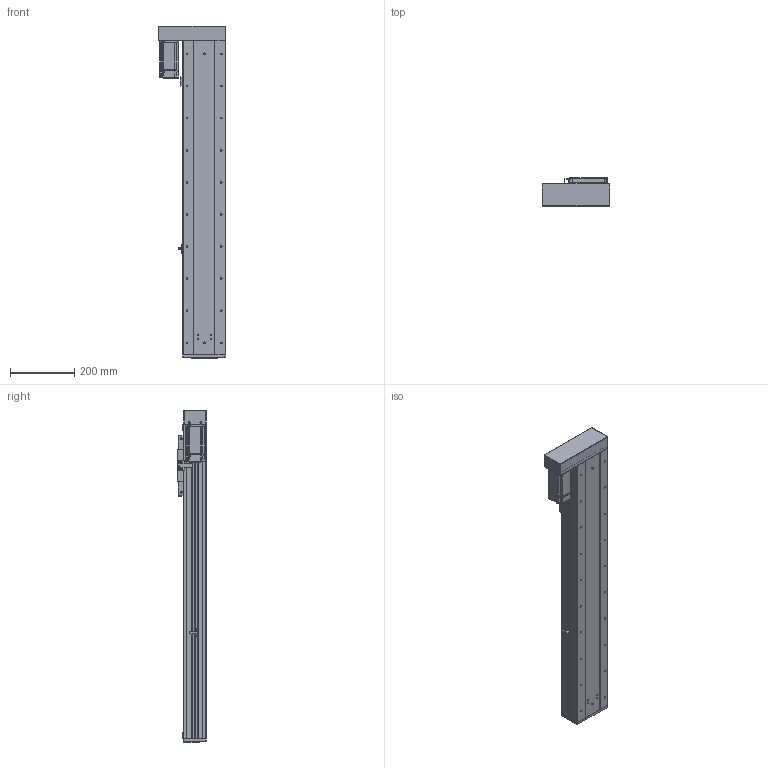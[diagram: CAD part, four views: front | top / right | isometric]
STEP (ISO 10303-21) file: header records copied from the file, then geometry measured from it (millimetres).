
FILE_DESCRIPTION (( 'STEP AP203' ), '1' );
FILE_NAME ('RY140F-L2020-300-LK.SLDASM_700.step', '2021-03-02T08:37:21', ( '盈信电脑' ), ( '东莞市道滘镇水果街19号' ), 'SwSTEP 2.0', 'SolidWorks 2012', '' );
FILE_SCHEMA (( 'CONFIG_CONTROL_DESIGN' ));
Length unit declared in the file: millimetre
Products named in the file (19): RY140F-L2020-300-LK.SLDASM_700; RY140F-酘衵殏萇儂欶(400W); RY140F-左右折电机安装板(400W M5); RY140F-转折折电机座（7001）; RY140F-詩湍揤え; 侐源滅袉蝶; RY140F-672覜茼んえ; 覜茼ん672; RY140F-直连型材铝滑块(16丝杆); RY140F-后盖板(铝件）; 15; 侂狟400W侜督萇儂; RY140F-詩湍幗謫粣; RY100F-詩湍揤踡謫; RY140F-滅鳥奻裔; RY140F-300-LK蛌殏詩湍_700; RY140F-300-LK倰第菁釱_700; RY140F-直连型材铝滑块连接座; RY140F-300-LK倰第奻裔啣_700
Assembly tree (23 placements, depth 3):
  RY140F-L2020-300-LK.SLDASM_700
    RY140F-300-LK倰第菁釱_700
    RY140F-300-LK倰第奻裔啣_700  x2
    RY140F-300-LK蛌殏詩湍_700
    RY140F-直连型材铝滑块连接座
    RY140F-滅鳥奻裔
    RY140F-詩湍幗謫粣
    RY100F-詩湍揤踡謫
    RY140F-直连型材铝滑块(16丝杆)
    RY140F-后盖板(铝件）
    侂狟400W侜督萇儂
      15
    覜茼ん672
    RY140F-672覜茼んえ
    RY140F-詩湍揤え  x2
    侐源滅袉蝶  x4
    RY140F-转折折电机座（7001）
    RY140F-左右折电机安装板(400W M5)
    RY140F-酘衵殏萇儂欶(400W)
Bounding box: 211 x 91 x 1034 mm (x, y, z)
Volume: 4090410.1 mm3; surface area: 1458582.8 mm2
Topology: 22 solids, 22 shells, 2053 faces, 5597 edges, 3546 vertices
Faces by surface type: cylinder 1000, plane 789, cone 234, bspline 26, torus 4
Entity records: 64747 total; most frequent: CARTESIAN_POINT 13667, DIRECTION 10390, ORIENTED_EDGE 10066, EDGE_CURVE 5033, AXIS2_PLACEMENT_3D 3733, VERTEX_POINT 3286, VECTOR 2924, LINE 2924
